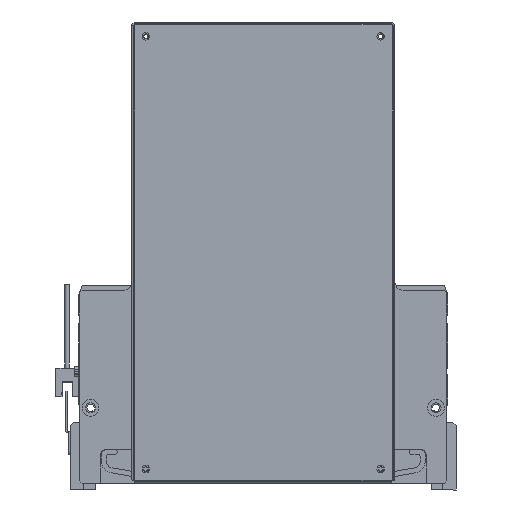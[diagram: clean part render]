
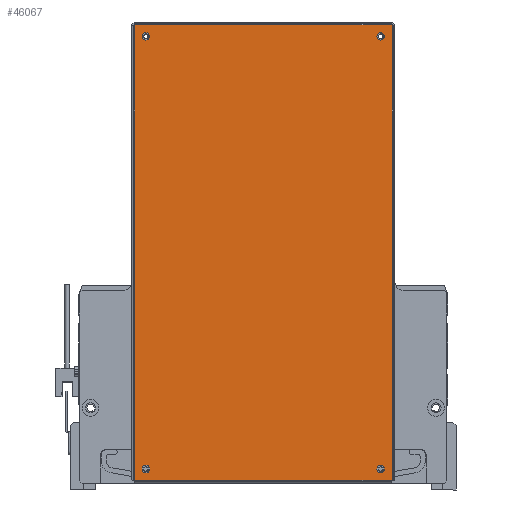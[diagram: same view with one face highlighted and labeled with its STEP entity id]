
A CAD part, front view. The second image highlights one B-rep face of the part: STEP entity #46067.
In plain terms, the highlighted planar face has unit normal (0, -1, 0) as drawn and (0, 0, 1) by its records, which use the part's own axes.
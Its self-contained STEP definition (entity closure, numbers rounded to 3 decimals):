
#426 = LINE ( 'NONE', #84283, #4731 ) ;
#809 = VERTEX_POINT ( 'NONE', #105678 ) ;
#1909 = CARTESIAN_POINT ( 'NONE',  ( 67.75, -144., 71. ) ) ;
#4038 = ORIENTED_EDGE ( 'NONE', *, *, #71636, .T. ) ;
#4667 = VERTEX_POINT ( 'NONE', #21424 ) ;
#4710 = CARTESIAN_POINT ( 'NONE',  ( 70., -144., 71. ) ) ;
#4731 = VECTOR ( 'NONE', #75850, 1000. ) ;
#5835 = DIRECTION ( 'NONE',  ( 1., 0., 0. ) ) ;
#6139 = CIRCLE ( 'NONE', #56608, 2.25 ) ;
#7339 = CARTESIAN_POINT ( 'NONE',  ( -72.25, -144., 71. ) ) ;
#8019 = EDGE_CURVE ( 'NONE', #57197, #118651, #118272, .T. ) ;
#9519 = EDGE_CURVE ( 'NONE', #80650, #809, #48528, .T. ) ;
#10253 = AXIS2_PLACEMENT_3D ( 'NONE', #88541, #107902, #107500 ) ;
#10404 = DIRECTION ( 'NONE',  ( 1., 0., 0. ) ) ;
#10891 = DIRECTION ( 'NONE',  ( 1., 0., 0. ) ) ;
#14029 = ORIENTED_EDGE ( 'NONE', *, *, #110110, .F. ) ;
#14300 = VERTEX_POINT ( 'NONE', #50539 ) ;
#15387 = CARTESIAN_POINT ( 'NONE',  ( -76.763, -150.763, 71. ) ) ;
#16411 = CIRCLE ( 'NONE', #114446, 2.25 ) ;
#18302 = CIRCLE ( 'NONE', #51341, 2.25 ) ;
#19267 = CIRCLE ( 'NONE', #10253, 2.25 ) ;
#20868 = LINE ( 'NONE', #43518, #100059 ) ;
#21424 = CARTESIAN_POINT ( 'NONE',  ( -76.763, -150.763, 71. ) ) ;
#22782 = DIRECTION ( 'NONE',  ( 0., 0., 1. ) ) ;
#23476 = CARTESIAN_POINT ( 'NONE',  ( 76.763, -150.763, 71. ) ) ;
#25330 = ORIENTED_EDGE ( 'NONE', *, *, #52274, .F. ) ;
#25417 = DIRECTION ( 'NONE',  ( 0., -1., 0. ) ) ;
#26342 = DIRECTION ( 'NONE',  ( 0., 0., 1. ) ) ;
#28627 = EDGE_LOOP ( 'NONE', ( #106064, #75742 ) ) ;
#28995 = CARTESIAN_POINT ( 'NONE',  ( -70., -144., 71. ) ) ;
#30743 = AXIS2_PLACEMENT_3D ( 'NONE', #92068, #92464, #10404 ) ;
#31245 = ORIENTED_EDGE ( 'NONE', *, *, #32149, .F. ) ;
#31325 = ORIENTED_EDGE ( 'NONE', *, *, #98070, .T. ) ;
#32149 = EDGE_CURVE ( 'NONE', #14300, #78475, #101919, .T. ) ;
#34762 = CARTESIAN_POINT ( 'NONE',  ( -70., -144., 71. ) ) ;
#35233 = VERTEX_POINT ( 'NONE', #1909 ) ;
#35563 = CARTESIAN_POINT ( 'NONE',  ( 70., 114., 71. ) ) ;
#36467 = LINE ( 'NONE', #15387, #95611 ) ;
#37916 = EDGE_CURVE ( 'NONE', #74030, #107471, #6139, .T. ) ;
#40290 = EDGE_CURVE ( 'NONE', #108954, #35233, #56272, .T. ) ;
#43518 = CARTESIAN_POINT ( 'NONE',  ( -76.763, 120.763, 71. ) ) ;
#46067 = ADVANCED_FACE ( 'NONE', ( #116629, #119507, #92118, #99281, #61889 ), #94906, .F. ) ;
#47818 = CARTESIAN_POINT ( 'NONE',  ( 0., -15., 71. ) ) ;
#47820 = EDGE_LOOP ( 'NONE', ( #14029, #31245 ) ) ;
#48528 = LINE ( 'NONE', #78365, #65711 ) ;
#50539 = CARTESIAN_POINT ( 'NONE',  ( -72.25, 114., 71. ) ) ;
#51341 = AXIS2_PLACEMENT_3D ( 'NONE', #28995, #66785, #10891 ) ;
#51831 = DIRECTION ( 'NONE',  ( -1., 0., 0. ) ) ;
#52274 = EDGE_CURVE ( 'NONE', #35233, #108954, #16411, .T. ) ;
#53173 = DIRECTION ( 'NONE',  ( 1., 0., 0. ) ) ;
#54129 = AXIS2_PLACEMENT_3D ( 'NONE', #47818, #104539, #104144 ) ;
#56013 = EDGE_LOOP ( 'NONE', ( #73152, #25330 ) ) ;
#56272 = CIRCLE ( 'NONE', #93779, 2.25 ) ;
#56608 = AXIS2_PLACEMENT_3D ( 'NONE', #35563, #63325, #80621 ) ;
#57197 = VERTEX_POINT ( 'NONE', #108622 ) ;
#61889 = FACE_OUTER_BOUND ( 'NONE', #84068, .T. ) ;
#62197 = DIRECTION ( 'NONE',  ( 1., 0., 0. ) ) ;
#63325 = DIRECTION ( 'NONE',  ( 0., 0., 1. ) ) ;
#65711 = VECTOR ( 'NONE', #51831, 1000. ) ;
#66785 = DIRECTION ( 'NONE',  ( 0., 0., 1. ) ) ;
#71587 = EDGE_CURVE ( 'NONE', #107471, #74030, #19267, .T. ) ;
#71636 = EDGE_CURVE ( 'NONE', #4667, #112752, #36467, .T. ) ;
#73152 = ORIENTED_EDGE ( 'NONE', *, *, #40290, .F. ) ;
#73986 = CARTESIAN_POINT ( 'NONE',  ( 76.763, 120.763, 71. ) ) ;
#74030 = VERTEX_POINT ( 'NONE', #77337 ) ;
#75742 = ORIENTED_EDGE ( 'NONE', *, *, #115844, .F. ) ;
#75850 = DIRECTION ( 'NONE',  ( 0., 1., 0. ) ) ;
#77337 = CARTESIAN_POINT ( 'NONE',  ( 67.75, 114., 71. ) ) ;
#78365 = CARTESIAN_POINT ( 'NONE',  ( 76.763, 120.763, 71. ) ) ;
#78475 = VERTEX_POINT ( 'NONE', #88731 ) ;
#80621 = DIRECTION ( 'NONE',  ( 1., 0., 0. ) ) ;
#80650 = VERTEX_POINT ( 'NONE', #73986 ) ;
#82906 = EDGE_CURVE ( 'NONE', #112752, #80650, #426, .T. ) ;
#84055 = CARTESIAN_POINT ( 'NONE',  ( 72.25, -144., 71. ) ) ;
#84068 = EDGE_LOOP ( 'NONE', ( #4038, #103143, #102287, #31325 ) ) ;
#84283 = CARTESIAN_POINT ( 'NONE',  ( 76.763, -150.763, 71. ) ) ;
#86999 = ORIENTED_EDGE ( 'NONE', *, *, #37916, .F. ) ;
#88099 = CIRCLE ( 'NONE', #30743, 2.25 ) ;
#88541 = CARTESIAN_POINT ( 'NONE',  ( 70., 114., 71. ) ) ;
#88731 = CARTESIAN_POINT ( 'NONE',  ( -67.75, 114., 71. ) ) ;
#91071 = CARTESIAN_POINT ( 'NONE',  ( -70., 114., 71. ) ) ;
#91460 = CARTESIAN_POINT ( 'NONE',  ( 72.25, 114., 71. ) ) ;
#92068 = CARTESIAN_POINT ( 'NONE',  ( -70., 114., 71. ) ) ;
#92118 = FACE_BOUND ( 'NONE', #28627, .T. ) ;
#92464 = DIRECTION ( 'NONE',  ( 0., 0., 1. ) ) ;
#93089 = AXIS2_PLACEMENT_3D ( 'NONE', #34762, #99124, #5835 ) ;
#93779 = AXIS2_PLACEMENT_3D ( 'NONE', #4710, #22782, #96834 ) ;
#94906 = PLANE ( 'NONE',  #54129 ) ;
#95611 = VECTOR ( 'NONE', #53173, 1000. ) ;
#96834 = DIRECTION ( 'NONE',  ( 1., 0., 0. ) ) ;
#98070 = EDGE_CURVE ( 'NONE', #809, #4667, #20868, .T. ) ;
#99124 = DIRECTION ( 'NONE',  ( 0., 0., 1. ) ) ;
#99281 = FACE_BOUND ( 'NONE', #106803, .T. ) ;
#100059 = VECTOR ( 'NONE', #25417, 1000. ) ;
#101919 = CIRCLE ( 'NONE', #110871, 2.25 ) ;
#102287 = ORIENTED_EDGE ( 'NONE', *, *, #9519, .T. ) ;
#103143 = ORIENTED_EDGE ( 'NONE', *, *, #82906, .T. ) ;
#104144 = DIRECTION ( 'NONE',  ( -1., 0., 0. ) ) ;
#104539 = DIRECTION ( 'NONE',  ( 0., 0., -1. ) ) ;
#105678 = CARTESIAN_POINT ( 'NONE',  ( -76.763, 120.763, 71. ) ) ;
#106064 = ORIENTED_EDGE ( 'NONE', *, *, #8019, .F. ) ;
#106803 = EDGE_LOOP ( 'NONE', ( #109332, #86999 ) ) ;
#107471 = VERTEX_POINT ( 'NONE', #91460 ) ;
#107500 = DIRECTION ( 'NONE',  ( 1., 0., 0. ) ) ;
#107902 = DIRECTION ( 'NONE',  ( 0., 0., 1. ) ) ;
#108502 = DIRECTION ( 'NONE',  ( 0., 0., 1. ) ) ;
#108622 = CARTESIAN_POINT ( 'NONE',  ( -67.75, -144., 71. ) ) ;
#108954 = VERTEX_POINT ( 'NONE', #84055 ) ;
#109256 = DIRECTION ( 'NONE',  ( 1., 0., 0. ) ) ;
#109332 = ORIENTED_EDGE ( 'NONE', *, *, #71587, .F. ) ;
#110110 = EDGE_CURVE ( 'NONE', #78475, #14300, #88099, .T. ) ;
#110871 = AXIS2_PLACEMENT_3D ( 'NONE', #91071, #26342, #109256 ) ;
#112752 = VERTEX_POINT ( 'NONE', #23476 ) ;
#114446 = AXIS2_PLACEMENT_3D ( 'NONE', #117754, #108502, #62197 ) ;
#115844 = EDGE_CURVE ( 'NONE', #118651, #57197, #18302, .T. ) ;
#116629 = FACE_BOUND ( 'NONE', #47820, .T. ) ;
#117754 = CARTESIAN_POINT ( 'NONE',  ( 70., -144., 71. ) ) ;
#118272 = CIRCLE ( 'NONE', #93089, 2.25 ) ;
#118651 = VERTEX_POINT ( 'NONE', #7339 ) ;
#119507 = FACE_BOUND ( 'NONE', #56013, .T. ) ;
